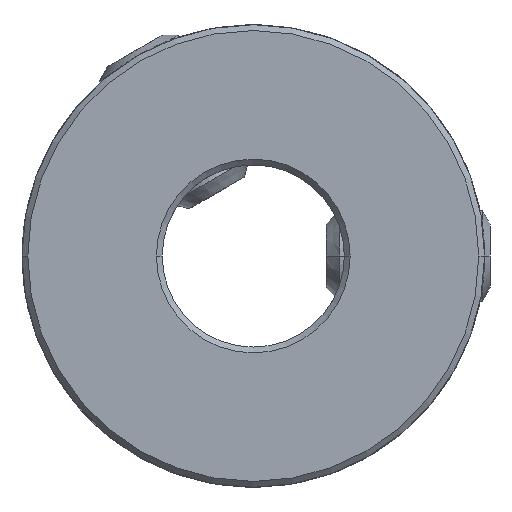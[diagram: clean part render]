
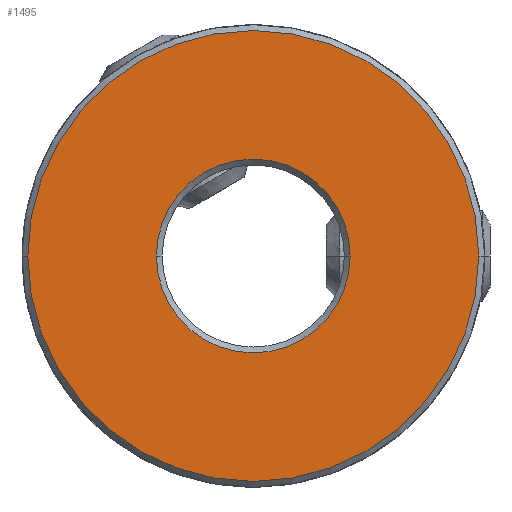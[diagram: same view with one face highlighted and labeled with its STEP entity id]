
A CAD part, front view. The second image highlights one B-rep face of the part: STEP entity #1495.
In plain terms, the highlighted planar face has unit normal (0, -1, 0).
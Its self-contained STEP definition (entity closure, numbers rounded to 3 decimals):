
#2=CARTESIAN_POINT('',(0.,-12.,
0.));
#3=DIRECTION('',(0.,-1.,0.));
#4=DIRECTION('',(1.,0.,0.));
#5=AXIS2_PLACEMENT_3D('',#2,#3,#4);
#7=CARTESIAN_POINT('',(0.,-12.,
0.));
#8=DIRECTION('',(0.,-1.,0.));
#9=DIRECTION('',(-1.,0.,0.));
#10=AXIS2_PLACEMENT_3D('',#7,#8,#9);
#12=CARTESIAN_POINT('',(0.,-12.,0.));
#13=DIRECTION('',(0.,1.,0.));
#14=DIRECTION('',(1.,0.,0.));
#15=AXIS2_PLACEMENT_3D('',#12,#13,#14);
#17=CARTESIAN_POINT('',(0.,-12.,0.));
#18=DIRECTION('',(0.,1.,0.));
#19=DIRECTION('',(-1.,0.,0.));
#20=AXIS2_PLACEMENT_3D('',#17,#18,#19);
#1356=CARTESIAN_POINT('',(5.32,-12.,0.));
#1357=CARTESIAN_POINT('',(-5.32,-12.,0.));
#1358=VERTEX_POINT('',#1356);
#1359=VERTEX_POINT('',#1357);
#1372=CARTESIAN_POINT('',(12.38,-12.,0.));
#1373=CARTESIAN_POINT('',(-12.38,-12.,0.));
#1374=VERTEX_POINT('',#1372);
#1375=VERTEX_POINT('',#1373);
#1478=CARTESIAN_POINT('',(0.,-12.,0.));
#1479=DIRECTION('',(0.,1.,0.));
#1480=DIRECTION('',(1.,0.,0.));
#1481=AXIS2_PLACEMENT_3D('',#1478,#1479,#1480);
#1482=PLANE('',#1481);
#1484=ORIENTED_EDGE('',*,*,#1483,.F.);
#1486=ORIENTED_EDGE('',*,*,#1485,.F.);
#1487=EDGE_LOOP('',(#1484,#1486));
#1488=FACE_OUTER_BOUND('',#1487,.F.);
#1490=ORIENTED_EDGE('',*,*,#1489,.F.);
#1492=ORIENTED_EDGE('',*,*,#1491,.F.);
#1493=EDGE_LOOP('',(#1490,#1492));
#1494=FACE_BOUND('',#1493,.F.);
#1495=ADVANCED_FACE('',(#1488,#1494),#1482,.F.);
#6=CIRCLE('',#5,12.38);
#11=CIRCLE('',#10,12.38);
#16=CIRCLE('',#15,5.32);
#21=CIRCLE('',#20,5.32);
#1483=EDGE_CURVE('',#1374,#1375,#6,.T.);
#1485=EDGE_CURVE('',#1375,#1374,#11,.T.);
#1489=EDGE_CURVE('',#1358,#1359,#16,.T.);
#1491=EDGE_CURVE('',#1359,#1358,#21,.T.);
